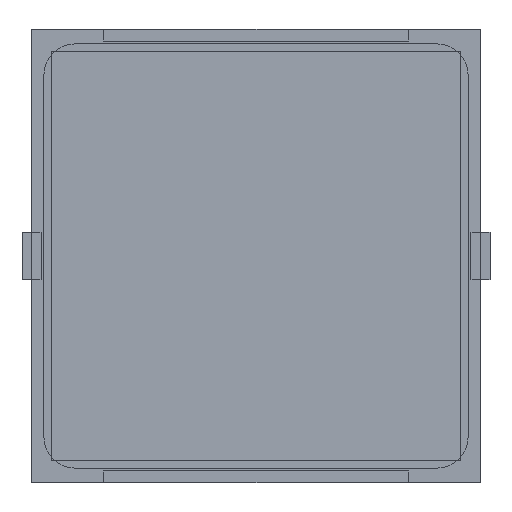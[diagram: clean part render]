
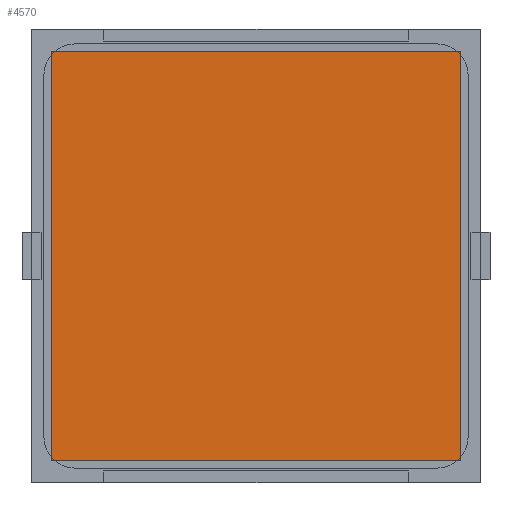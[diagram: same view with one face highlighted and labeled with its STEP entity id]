
A CAD part, front view. The second image highlights one B-rep face of the part: STEP entity #4570.
In plain terms, the highlighted planar face has unit normal (0, -1, 0).
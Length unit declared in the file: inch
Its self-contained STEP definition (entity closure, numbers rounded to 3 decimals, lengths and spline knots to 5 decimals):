
#118 = DIRECTION ( 'NONE',  ( 0., 0., -1. ) ) ;
#240 = LINE ( 'NONE', #12474, #12488 ) ;
#972 = VECTOR ( 'NONE', #6982, 39.37008 ) ;
#1463 = VERTEX_POINT ( 'NONE', #10681 ) ;
#1648 = LINE ( 'NONE', #8837, #12856 ) ;
#1684 = VERTEX_POINT ( 'NONE', #11273 ) ;
#1753 = ORIENTED_EDGE ( 'NONE', *, *, #8404, .F. ) ;
#1762 = VERTEX_POINT ( 'NONE', #8564 ) ;
#2446 = ORIENTED_EDGE ( 'NONE', *, *, #7988, .F. ) ;
#2587 = ORIENTED_EDGE ( 'NONE', *, *, #7595, .F. ) ;
#2625 = VECTOR ( 'NONE', #118, 39.37008 ) ;
#3501 = VERTEX_POINT ( 'NONE', #6779 ) ;
#3588 = DIRECTION ( 'NONE',  ( 0., 0., 1. ) ) ;
#4056 = LINE ( 'NONE', #5861, #972 ) ;
#4338 = DIRECTION ( 'NONE',  ( 1., 0., 0. ) ) ;
#4353 = LINE ( 'NONE', #12360, #2625 ) ;
#4570 = ADVANCED_FACE ( 'NONE', ( #8428 ), #8565, .F. ) ;
#5861 = CARTESIAN_POINT ( 'NONE',  ( -0.84646, -0.005, -0.84646 ) ) ;
#6779 = CARTESIAN_POINT ( 'NONE',  ( -0.84646, -0.005, 0.84646 ) ) ;
#6982 = DIRECTION ( 'NONE',  ( -1., 0., 0. ) ) ;
#7356 = ORIENTED_EDGE ( 'NONE', *, *, #11614, .F. ) ;
#7428 = DIRECTION ( 'NONE',  ( 0., 0., 1. ) ) ;
#7595 = EDGE_CURVE ( 'NONE', #3501, #1684, #240, .T. ) ;
#7626 = DIRECTION ( 'NONE',  ( 0., 1., 0. ) ) ;
#7988 = EDGE_CURVE ( 'NONE', #1463, #1762, #4056, .T. ) ;
#8404 = EDGE_CURVE ( 'NONE', #1762, #3501, #1648, .T. ) ;
#8428 = FACE_OUTER_BOUND ( 'NONE', #12923, .T. ) ;
#8564 = CARTESIAN_POINT ( 'NONE',  ( -0.84646, -0.005, -0.84646 ) ) ;
#8565 = PLANE ( 'NONE',  #9355 ) ;
#8633 = CARTESIAN_POINT ( 'NONE',  ( -0.84646, -0.005, 0.84646 ) ) ;
#8837 = CARTESIAN_POINT ( 'NONE',  ( -0.84646, -0.005, -0.84646 ) ) ;
#9355 = AXIS2_PLACEMENT_3D ( 'NONE', #8633, #7626, #7428 ) ;
#10681 = CARTESIAN_POINT ( 'NONE',  ( 0.84646, -0.005, -0.84646 ) ) ;
#11273 = CARTESIAN_POINT ( 'NONE',  ( 0.84646, -0.005, 0.84646 ) ) ;
#11614 = EDGE_CURVE ( 'NONE', #1684, #1463, #4353, .T. ) ;
#12360 = CARTESIAN_POINT ( 'NONE',  ( 0.84646, -0.005, -0.84646 ) ) ;
#12474 = CARTESIAN_POINT ( 'NONE',  ( -0.84646, -0.005, 0.84646 ) ) ;
#12488 = VECTOR ( 'NONE', #4338, 39.37008 ) ;
#12856 = VECTOR ( 'NONE', #3588, 39.37008 ) ;
#12923 = EDGE_LOOP ( 'NONE', ( #1753, #2446, #7356, #2587 ) ) ;
